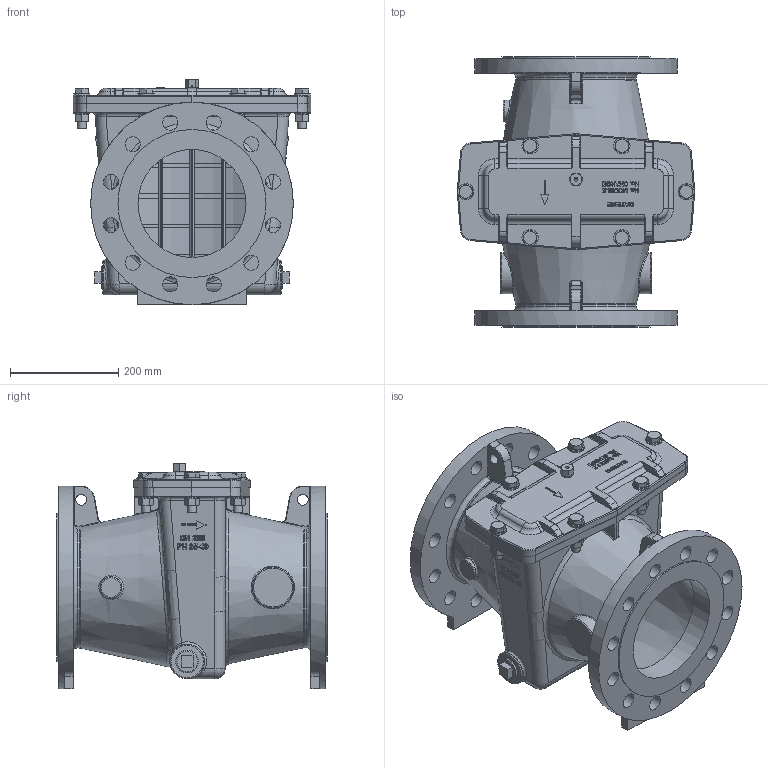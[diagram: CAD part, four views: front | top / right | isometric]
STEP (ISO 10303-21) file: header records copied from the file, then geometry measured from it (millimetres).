
FILE_DESCRIPTION(/* description */ (''),/* implementation_level */ '2;1');
FILE_NAME(/* name */ 'G:\Doc_Liberes\SymbolesCAD\Modeles_3D\FichierSTP\Aqua\Aqua90501\FAB200_25.stp',/* time_stamp */ '2017-11-27T09:23:09+01:00',/* author */ ('Cédric'),/* organization */ (''),/* preprocessor_version */ 'ST-DEVELOPER v16.13',/* originating_system */ 'Autodesk Inventor 2018',/* authorisation */ '');
FILE_SCHEMA (('AUTOMOTIVE_DESIGN { 1 0 10303 214 3 1 1 }'));
Products named in the file (15): FAB20025; corps20025; BGT7001; 57976; 57576-02; 57576-07; 57507; 57977; 57978-01; 57978renf; 57978tami; ARP; ISO 4014 - M16 x 65; ISO 4032 - M16; ISO 7089 - 16 - 140 HV
Assembly tree (36 placements, depth 3):
  FAB20025
    corps20025
    BGT7001  x2
    57976
    57576-02
      57576-07
      57507
    57977
    57978-01
      57978renf
      57978tami
    ARP
    ISO 4014 - M16 x 65  x6
    ISO 7089 - 16 - 140 HV  x12
    ISO 4032 - M16  x6
Bounding box: 440.07 x 500 x 417.5 mm (x, y, z)
Volume: 12901962.7 mm3; surface area: 2161625.5 mm2
Topology: 34 solids, 34 shells, 1907 faces, 4931 edges, 3134 vertices
Faces by surface type: plane 1019, cylinder 362, bspline 322, torus 105, cone 91, sphere 8
Full cylindrical faces by diameter (mm): 1.6 x1, 2.3 x1, 6.5 x1, 6.92 x1, 7 x4, 8 x1, 13.835 x6, 14 x1, 16 x6, 17 x12, 18 x12, 18.63 x1, 20 x2, 20.955 x1, 22.49 x6, 28 x24, 30 x12, 32 x2, 37.13 x2, 40 x1, 42 x2, 64 x1, 76 x2, 200 x2, 274 x2, 375 x2
Entity records: 58116 total; most frequent: CARTESIAN_POINT 17315, ORIENTED_EDGE 8662, DIRECTION 7488, EDGE_CURVE 4331, VERTEX_POINT 2822, LINE 2712, VECTOR 2712, AXIS2_PLACEMENT_3D 2388
